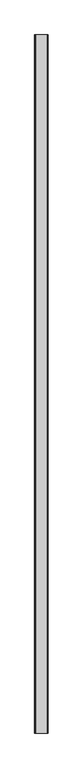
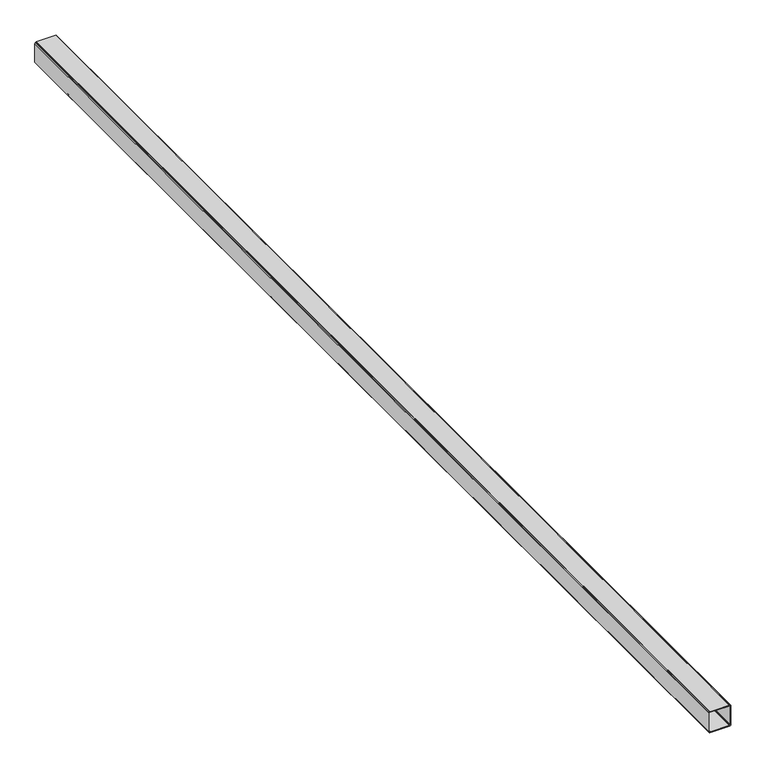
"""IFC4 building model written with IfcOpenShell, lengths in millimetres: beam geometry, Lisse acrot?re 189965 : Lisse acrot?re 189965."""

import ifcopenshell
import ifcopenshell.guid

model = None  # the IFC model being written
_history = None  # IfcOwnerHistory: only IFC2X3 demands one
_inside = {}  # id of a spatial element -> (the spatial element, [elements in it])
_under = {}  # id of a project, library or spatial element -> (it, [spatial elements below it])
_declared = {}  # id of a project -> (the project, [libraries it declares])
_typed = {}  # id of a type object -> (the type object, [elements of that type])
_made_of = {}  # id of a material, layer set ... -> (it, [elements and type objects made of it])


def new_model(schema):
    """Start an empty IFC model of exactly this schema.

    Asked for "IFC4X3", IfcOpenShell would pick the latest addendum, in which some entities
    have other attributes; the version numbers below select the first issue.
    IFC2X3 requires an IfcOwnerHistory on every rooted entity: one is made here for all.
    """
    global model, _history
    if schema == "IFC4X3":
        model = ifcopenshell.file(schema_version=(4, 3, 0, 0))
    else:
        model = ifcopenshell.file(schema=schema)
    _inside.clear()
    _under.clear()
    _declared.clear()
    _typed.clear()
    _made_of.clear()
    _history = None
    if model.schema == "IFC2X3":
        org = make("IfcOrganization", Name="unknown")
        user = make(
            "IfcPersonAndOrganization",
            ThePerson=make("IfcPerson", FamilyName="unknown"),
            TheOrganization=org,
        )
        app = make(
            "IfcApplication",
            ApplicationDeveloper=org,
            Version="unknown",
            ApplicationFullName="unknown",
            ApplicationIdentifier="unknown",
        )
        _history = make(
            "IfcOwnerHistory",
            OwningUser=user,
            OwningApplication=app,
            ChangeAction="ADDED",
            CreationDate=0,
        )
    return model


def make(cls, **values):
    """One entity of the class cls with the attributes given. An attribute that is None is left unset."""
    return model.create_entity(
        cls, **{name: value for name, value in values.items() if value is not None}
    )


def rooted(cls, **values):
    """An entity with a GlobalId (a new one), such as an element, a storey or a relation."""
    return make(cls, GlobalId=ifcopenshell.guid.new(), OwnerHistory=_history, **values)


def si_unit(unit_type, name, prefix=None):
    """IfcSIUnit, for example si_unit("LENGTHUNIT", "METRE", prefix="MILLI")."""
    return make("IfcSIUnit", UnitType=unit_type, Prefix=prefix, Name=name)


def assignment(units):
    """IfcUnitAssignment: the units of a project."""
    return None if units is None else make("IfcUnitAssignment", Units=units)


def point(xyz):
    """IfcCartesianPoint."""
    return None if xyz is None else make("IfcCartesianPoint", Coordinates=xyz)


def direction(xyz):
    """IfcDirection."""
    return None if xyz is None else make("IfcDirection", DirectionRatios=xyz)


def frame(location, z_axis=None, x_axis=None):
    """IfcAxis2Placement3D, a coordinate frame: its origin and axes. An axis left out is left unset."""
    return make(
        "IfcAxis2Placement3D",
        Location=point(location),
        Axis=direction(z_axis),
        RefDirection=direction(x_axis),
    )


def origin():
    """The frame at (0, 0, 0) with its axes left unset."""
    return frame((0.0, 0.0, 0.0))


def place(relative_to, where):
    """IfcLocalPlacement: puts the frame where relative to a parent placement (None: the world)."""
    return make(
        "IfcLocalPlacement", PlacementRelTo=relative_to, RelativePlacement=where
    )


def context(
    kind, dimensions, precision=None, world=None, true_north=None, identifier=None
):
    """IfcGeometricRepresentationContext, for example the 3D "Model" context."""
    return make(
        "IfcGeometricRepresentationContext",
        ContextIdentifier=identifier,
        ContextType=kind,
        CoordinateSpaceDimension=dimensions,
        Precision=precision,
        WorldCoordinateSystem=world,
        TrueNorth=true_north,
    )


def project(units=None, contexts=None):
    """IfcProject with its units and contexts."""
    return rooted(
        "IfcProject",
        Name="project",
        RepresentationContexts=contexts,
        UnitsInContext=assignment(units),
    )


def spatial(cls, under=None, at=None, **own):
    """A site, building, storey or space (cls), placed at a placement, below another one or the project."""
    s = rooted(cls, ObjectPlacement=at, **own)
    if under is not None:
        _under.setdefault(under.id(), (under, []))[1].append(s)
    return s


def polyline(points):
    """IfcPolyline through the points."""
    return make("IfcPolyline", Points=[point(p) for p in points])


def outline(outer, holes=None, kind="AREA"):
    """IfcArbitraryClosedProfileDef: a profile drawn as a closed curve; with holes, ...WithVoids."""
    if holes is None:
        return make("IfcArbitraryClosedProfileDef", ProfileType=kind, OuterCurve=outer)
    return make(
        "IfcArbitraryProfileDefWithVoids",
        ProfileType=kind,
        OuterCurve=outer,
        InnerCurves=holes,
    )


def extrude(swept, where, along, depth):
    """IfcExtrudedAreaSolid: the profile swept, set in the frame where, extruded along a direction by depth."""
    return make(
        "IfcExtrudedAreaSolid",
        SweptArea=swept,
        Position=where,
        ExtrudedDirection=direction(along),
        Depth=depth,
    )


def shape(context_of_items, identifier, shape_type, items):
    """IfcShapeRepresentation: the items that make up one representation, for example the "Body"."""
    return make(
        "IfcShapeRepresentation",
        ContextOfItems=context_of_items,
        RepresentationIdentifier=identifier,
        RepresentationType=shape_type,
        Items=items,
    )


def source(mapping_origin, context_of_items, identifier, shape_type, items):
    """IfcRepresentationMap: a shape defined once, which mapped items show again and again."""
    return make(
        "IfcRepresentationMap",
        MappingOrigin=mapping_origin,
        MappedRepresentation=shape(context_of_items, identifier, shape_type, items),
    )


def transform(
    local_origin,
    x_axis=None,
    y_axis=None,
    z_axis=None,
    scale=None,
    scale2=None,
    scale3=None,
    uniform=True,
):
    """IfcCartesianTransformationOperator3D, or its non-uniform kind. x_axis, y_axis, z_axis: its Axis1, 2, 3."""
    if uniform:
        return make(
            "IfcCartesianTransformationOperator3D",
            Axis1=direction(x_axis),
            Axis2=direction(y_axis),
            LocalOrigin=point(local_origin),
            Scale=scale,
            Axis3=direction(z_axis),
        )
    return make(
        "IfcCartesianTransformationOperator3DnonUniform",
        Axis1=direction(x_axis),
        Axis2=direction(y_axis),
        LocalOrigin=point(local_origin),
        Scale=scale,
        Axis3=direction(z_axis),
        Scale2=scale2,
        Scale3=scale3,
    )


def mapped(mapping_source, mapping_target):
    """IfcMappedItem: shows the shape of a source again, moved by a transform."""
    return make(
        "IfcMappedItem", MappingSource=mapping_source, MappingTarget=mapping_target
    )


def made_of(thing, what):
    """Note that an element or type object is made of a material, layer set ...; save() writes the relation."""
    if what is not None:
        _made_of.setdefault(what.id(), (what, []))[1].append(thing)
    return thing


def element(
    cls,
    number,
    at=None,
    inside=None,
    cuts=None,
    type_object=None,
    material=None,
    context=None,
    identifier="Body",
    shape_type=None,
    held_by="IfcProductDefinitionShape",
    body=None,
    shapes=None,
    **own,
):
    """One element of the class cls, such as IfcWall. Its Tag is "e" and its number.

    at: its placement. inside: the storey or other place that contains it. cuts: it is an
    opening in that element (IfcRelVoidsElement). A single representation is given by context,
    identifier, shape_type and body (its items); several are given by shapes. held_by: the class
    of the entity that holds the representations. save() writes the other relations.
    """
    e = rooted(cls, Tag="e%d" % number, ObjectPlacement=at, **own)
    if body is not None:
        shapes = [shape(context, identifier, shape_type, body)]
    if shapes is not None:
        e.Representation = make(held_by, Representations=shapes)
    if inside is not None:
        _inside.setdefault(inside.id(), (inside, []))[1].append(e)
    if cuts is not None:
        rooted(
            "IfcRelVoidsElement", RelatingBuildingElement=cuts, RelatedOpeningElement=e
        )
    if type_object is not None:
        _typed.setdefault(type_object.id(), (type_object, []))[1].append(e)
    return made_of(e, material)


def aggregate(whole, parts):
    """IfcRelAggregates: a whole, such as a stair, and the parts it consists of."""
    return rooted("IfcRelAggregates", RelatingObject=whole, RelatedObjects=parts)


def save(model, path):
    """Write the relations noted so far, then the file.

    IfcRelAggregates (storeys below a building ...), IfcRelContainedInSpatialStructure (elements
    in a storey), IfcRelDefinesByType, IfcRelAssociatesMaterial and IfcRelDeclares: one each for
    every whole, place, type object, material and project.
    """
    for whole, parts in _under.values():
        aggregate(whole, parts)
    for where, things in _inside.values():
        rooted(
            "IfcRelContainedInSpatialStructure",
            RelatedElements=things,
            RelatingStructure=where,
        )
    for kind, things in _typed.values():
        rooted("IfcRelDefinesByType", RelatedObjects=things, RelatingType=kind)
    for what, things in _made_of.values():
        rooted("IfcRelAssociatesMaterial", RelatedObjects=things, RelatingMaterial=what)
    for by, libraries in _declared.values():
        rooted("IfcRelDeclares", RelatingContext=by, RelatedDefinitions=libraries)
    model.write(path)


def beam_624a8042(model_context):
    return source(origin(), model_context, "Body", "SweptSolid", [
        extrude(outline(polyline([(8456.0, -180.0000001), (8453.0, -179.1961526), (8450.8038476, -177.0000001), (8450.0, -174.0000001), (8450.0, -86.0000001), (8450.8038476, -83.0000001), (8453.0, -80.8038477), (8456.0, -80.0000001), (8544.0, -80.0000001), (8547.0, -80.8038477), (8549.1961524, -83.0000001), (8550.0, -86.0000001), (8550.0, -174.0000001), (8549.1961524, -177.0000001), (8547.0, -179.1961526), (8544.0, -180.0000001), (8456.0, -180.0000001)]), holes=[polyline([(8542.0, -176.0000001), (8544.0, -175.4641017), (8545.4641016, -174.0000001), (8546.0, -172.0000001), (8546.0, -88.0000001), (8545.4641016, -86.0000001), (8544.0, -84.5358985), (8542.0, -84.0000001), (8458.0, -84.0000001), (8456.0, -84.5358985), (8454.5358984, -86.0000001), (8454.0, -88.0000001), (8454.0, -172.0000001), (8454.5358984, -174.0000001), (8456.0, -175.4641017), (8458.0, -176.0000001), (8542.0, -176.0000001)])]), frame((0.0, -34315.0, 0.0), z_axis=(0.0, 1.0, 0.0), x_axis=(0.0, 0.0, 1.0)), (0.0, 0.0, 1.0), 5248.5),
    ])


if __name__ == "__main__":
    model = new_model("IFC4")
    model_context = context("Model", 3, world=origin())
    ifc_project = project(units=[si_unit("LENGTHUNIT", "METRE", prefix="MILLI")], contexts=[model_context])
    site = spatial("IfcSite", under=ifc_project)
    building = spatial("IfcBuilding", under=site)
    placement = place(None, origin())
    beam_shape = beam_624a8042(model_context)
    element("IfcBeam", 1, ObjectType="Lisse acrot?re 189965 : Lisse acrot?re 189965", at=placement, inside=building, context=model_context, shape_type="MappedRepresentation", body=[
        mapped(beam_shape, transform((0.0, 0.0, 0.0), x_axis=(1.0, 0.0, 0.0), y_axis=(0.0, 1.0, 0.0), z_axis=(0.0, 0.0, 1.0))),
    ])
    save(model, "model.ifc")
